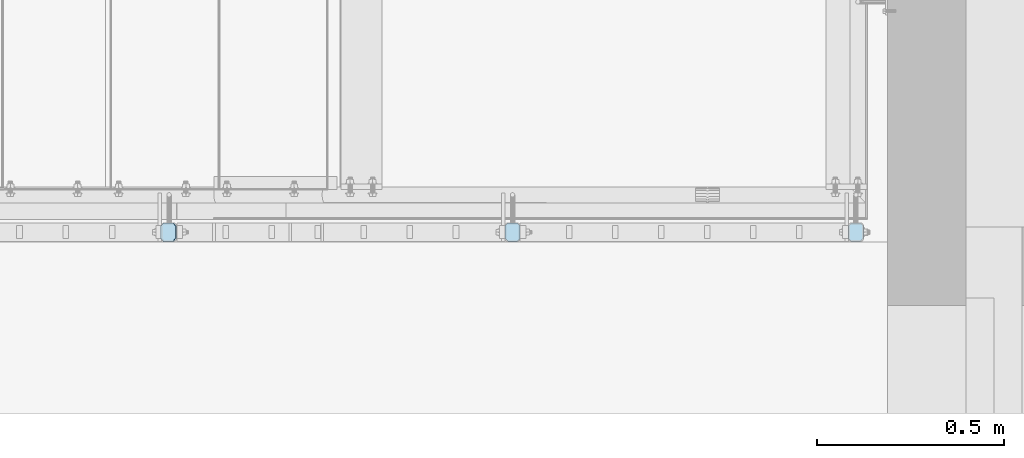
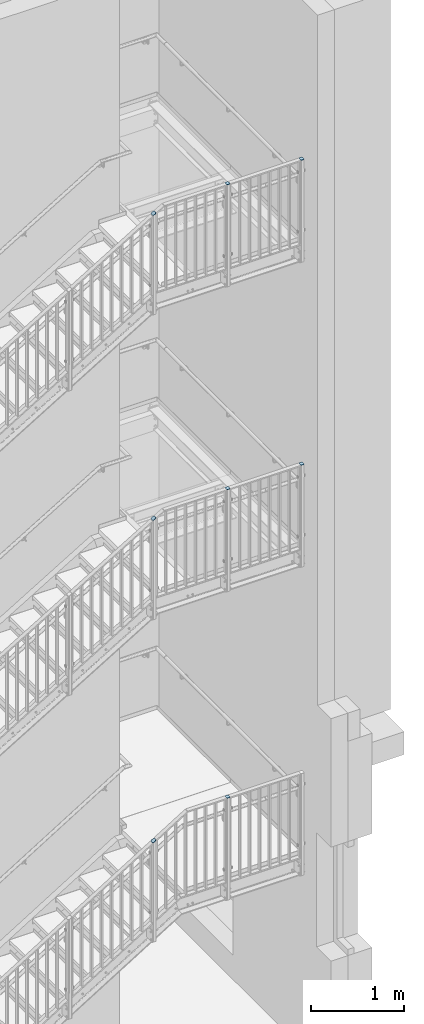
# One storey, part 71 of 410: 8 plates, 32 openings.
"""IFC2X3 building model written with IfcOpenShell, lengths in millimetres."""

from ifc_helpers import new_model, entity, si_unit, converted_unit, point, frame, frame_2d, origin, origin_with_axes, place, context, project, spatial, polyline, circle_curve, line_curve, trimmed, segment, composite_curve, outline, extrude, material, layer, layer_set, element, save


model = new_model("IFC2X3")

# Units and contexts
model_context = context("Model", 3, precision=1e-09, world=origin_with_axes())
ifc_project = project(units=[si_unit("LENGTHUNIT", "METRE", prefix="MILLI"), si_unit("AREAUNIT", "SQUARE_METRE"), si_unit("VOLUMEUNIT", "CUBIC_METRE"), converted_unit("PLANEANGLEUNIT", "DEGREE", entity("IfcPlaneAngleMeasure", 0.01745329), si_unit("PLANEANGLEUNIT", "RADIAN"), dimensions=[0, 0, 0, 0, 0, 0, 0])], contexts=[model_context])

# Site, building, storey
site_placement = place(None, origin_with_axes())
site = spatial("IfcSite", under=ifc_project, at=site_placement, Name="mKR Teilneubau & Sanierung BA1 - Ostfildern", CompositionType="ELEMENT")
building_placement = place(site_placement, origin_with_axes())
building = spatial("IfcBuilding", under=site, at=building_placement, Name="Struktur 1", CompositionType="ELEMENT")
storey_placement = place(building_placement, origin_with_axes())
storey = spatial("IfcBuildingStorey", under=building, at=storey_placement, Name="Default Storey", CompositionType="ELEMENT", Elevation=0.0)

# Plate, openings
ifc_material = material(Name="S235JR")
ifc_layer = layer(ifc_material, 5.0)
ifc_layer_set = layer_set([ifc_layer], Name="S235JR")
plate_1_placement = place(None, frame((2285.001468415, 15405.999999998, 7020.0), z_axis=(0.0, 0.0, 1.0), x_axis=(0.0, 1.0, 0.0)))
plate_1 = element("IfcPlate", 1, at=plate_1_placement, inside=storey, material=ifc_layer_set, Name="-", ObjectType="-", context=model_context, shape_type="SweptSolid", body=[
    extrude(outline(polyline([(-25.0, -20.0), (25.0, -20.0), (25.0, 20.0), (-25.0, 20.0), (-25.0, -20.0)])), origin_with_axes(), (0.0, 0.0, 1.0), 5.0),
])
opening_1_placement = place(plate_1_placement, frame((0.0, 0.0, -0.01), z_axis=(0.0, 0.0, 1.0), x_axis=(1.0, 0.0, 0.0)))
element("IfcOpeningElement", 2, at=opening_1_placement, cuts=plate_1, ObjectType="Opening", context=model_context, shape_type="SweptSolid", body=[
    extrude(outline(composite_curve([segment(trimmed(line_curve((25.0, -20.0), (0.0, 1.0), 8.0), [point((25.0, -20.0))], [point((25.0, -12.0))], True, "CARTESIAN"), True, "CONTINUOUS"), segment(trimmed(circle_curve(frame_2d((17.0, -12.0), x_axis=(-1.0, 0.0)), 8.0), [point((25.0, -12.0))], [point((17.0, -20.0))], False, "CARTESIAN"), True, "CONTINUOUS"), segment(trimmed(line_curve((17.0, -20.0), (1.0, 0.0), 8.0), [point((17.0, -20.0))], [point((25.0, -20.0))], True, "CARTESIAN"), True, "CONTINUOUS")], self_intersect=False)), origin(), (0.0, 0.0, 1.0), 5.02),
])
opening_2_placement = place(plate_1_placement, frame((0.0, 0.0, -0.01), z_axis=(0.0, 0.0, 1.0), x_axis=(1.0, 0.0, 0.0)))
element("IfcOpeningElement", 3, at=opening_2_placement, cuts=plate_1, ObjectType="Opening", context=model_context, shape_type="SweptSolid", body=[
    extrude(outline(composite_curve([segment(trimmed(line_curve((-25.0, -20.0), (1.0, 0.0), 8.0), [point((-25.0, -20.0))], [point((-17.0, -20.0))], True, "CARTESIAN"), True, "CONTINUOUS"), segment(trimmed(circle_curve(frame_2d((-17.0, -12.0), x_axis=(-1.0, 0.0)), 8.0), [point((-17.0, -20.0))], [point((-25.0, -12.0))], False, "CARTESIAN"), True, "CONTINUOUS"), segment(trimmed(line_curve((-25.0, -12.0), (0.0, -1.0), 8.0), [point((-25.0, -12.0))], [point((-25.0, -20.0))], True, "CARTESIAN"), True, "CONTINUOUS")], self_intersect=False)), origin(), (0.0, 0.0, 1.0), 5.02),
])
opening_3_placement = place(plate_1_placement, frame((0.0, 0.0, -0.01), z_axis=(0.0, 0.0, 1.0), x_axis=(1.0, 0.0, 0.0)))
element("IfcOpeningElement", 4, at=opening_3_placement, cuts=plate_1, ObjectType="Opening", context=model_context, shape_type="SweptSolid", body=[
    extrude(outline(composite_curve([segment(trimmed(line_curve((-25.0, 20.0), (0.0, -1.0), 8.0), [point((-25.0, 20.0))], [point((-25.0, 12.0))], True, "CARTESIAN"), True, "CONTINUOUS"), segment(trimmed(circle_curve(frame_2d((-17.0, 12.0), x_axis=(-1.0, 0.0)), 8.0), [point((-25.0, 12.0))], [point((-17.0, 20.0))], False, "CARTESIAN"), True, "CONTINUOUS"), segment(trimmed(line_curve((-17.0, 20.0), (-1.0, 0.0), 8.0), [point((-17.0, 20.0))], [point((-25.0, 20.0))], True, "CARTESIAN"), True, "CONTINUOUS")], self_intersect=False)), origin(), (0.0, 0.0, 1.0), 5.02),
])
opening_4_placement = place(plate_1_placement, frame((0.0, 0.0, -0.01), z_axis=(0.0, 0.0, 1.0), x_axis=(1.0, 0.0, 0.0)))
element("IfcOpeningElement", 5, at=opening_4_placement, cuts=plate_1, ObjectType="Opening", context=model_context, shape_type="SweptSolid", body=[
    extrude(outline(composite_curve([segment(trimmed(line_curve((25.0, 20.0), (-1.0, 0.0), 8.0), [point((25.0, 20.0))], [point((17.0, 20.0))], True, "CARTESIAN"), True, "CONTINUOUS"), segment(trimmed(circle_curve(frame_2d((17.0, 12.0), x_axis=(-1.0, 0.0)), 8.0), [point((17.0, 20.0))], [point((25.0, 12.0))], False, "CARTESIAN"), True, "CONTINUOUS"), segment(trimmed(line_curve((25.0, 12.0), (0.0, 1.0), 8.0), [point((25.0, 12.0))], [point((25.0, 20.0))], True, "CARTESIAN"), True, "CONTINUOUS")], self_intersect=False)), origin(), (0.0, 0.0, 1.0), 5.02),
])

plate_2_placement = place(None, frame((3205.001468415, 15405.999999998, 7020.0), z_axis=(0.0, 0.0, 1.0), x_axis=(0.0, 1.0, 0.0)))
plate_2 = element("IfcPlate", 6, at=plate_2_placement, inside=storey, material=ifc_layer_set, Name="-", ObjectType="-", context=model_context, shape_type="SweptSolid", body=[
    extrude(outline(polyline([(-25.0, -20.0), (25.0, -20.0), (25.0, 20.0), (-25.0, 20.0), (-25.0, -20.0)])), origin_with_axes(), (0.0, 0.0, 1.0), 5.0),
])
opening_5_placement = place(plate_2_placement, frame((0.0, 0.0, -0.01), z_axis=(0.0, 0.0, 1.0), x_axis=(1.0, 0.0, 0.0)))
element("IfcOpeningElement", 7, at=opening_5_placement, cuts=plate_2, ObjectType="Opening", context=model_context, shape_type="SweptSolid", body=[
    extrude(outline(composite_curve([segment(trimmed(line_curve((25.0, -20.0), (0.0, 1.0), 8.0), [point((25.0, -20.0))], [point((25.0, -12.0))], True, "CARTESIAN"), True, "CONTINUOUS"), segment(trimmed(circle_curve(frame_2d((17.0, -12.0), x_axis=(-1.0, 0.0)), 8.0), [point((25.0, -12.0))], [point((17.0, -20.0))], False, "CARTESIAN"), True, "CONTINUOUS"), segment(trimmed(line_curve((17.0, -20.0), (1.0, 0.0), 8.0), [point((17.0, -20.0))], [point((25.0, -20.0))], True, "CARTESIAN"), True, "CONTINUOUS")], self_intersect=False)), origin(), (0.0, 0.0, 1.0), 5.02),
])
opening_6_placement = place(plate_2_placement, frame((0.0, 0.0, -0.01), z_axis=(0.0, 0.0, 1.0), x_axis=(1.0, 0.0, 0.0)))
element("IfcOpeningElement", 8, at=opening_6_placement, cuts=plate_2, ObjectType="Opening", context=model_context, shape_type="SweptSolid", body=[
    extrude(outline(composite_curve([segment(trimmed(line_curve((-25.0, -20.0), (1.0, 0.0), 8.0), [point((-25.0, -20.0))], [point((-17.0, -20.0))], True, "CARTESIAN"), True, "CONTINUOUS"), segment(trimmed(circle_curve(frame_2d((-17.0, -12.0), x_axis=(-1.0, 0.0)), 8.0), [point((-17.0, -20.0))], [point((-25.0, -12.0))], False, "CARTESIAN"), True, "CONTINUOUS"), segment(trimmed(line_curve((-25.0, -12.0), (0.0, -1.0), 8.0), [point((-25.0, -12.0))], [point((-25.0, -20.0))], True, "CARTESIAN"), True, "CONTINUOUS")], self_intersect=False)), origin(), (0.0, 0.0, 1.0), 5.02),
])
opening_7_placement = place(plate_2_placement, frame((0.0, 0.0, -0.01), z_axis=(0.0, 0.0, 1.0), x_axis=(1.0, 0.0, 0.0)))
element("IfcOpeningElement", 9, at=opening_7_placement, cuts=plate_2, ObjectType="Opening", context=model_context, shape_type="SweptSolid", body=[
    extrude(outline(composite_curve([segment(trimmed(line_curve((-25.0, 20.0), (0.0, -1.0), 8.0), [point((-25.0, 20.0))], [point((-25.0, 12.0))], True, "CARTESIAN"), True, "CONTINUOUS"), segment(trimmed(circle_curve(frame_2d((-17.0, 12.0), x_axis=(-1.0, 0.0)), 8.0), [point((-25.0, 12.0))], [point((-17.0, 20.0))], False, "CARTESIAN"), True, "CONTINUOUS"), segment(trimmed(line_curve((-17.0, 20.0), (-1.0, 0.0), 8.0), [point((-17.0, 20.0))], [point((-25.0, 20.0))], True, "CARTESIAN"), True, "CONTINUOUS")], self_intersect=False)), origin(), (0.0, 0.0, 1.0), 5.02),
])
opening_8_placement = place(plate_2_placement, frame((0.0, 0.0, -0.01), z_axis=(0.0, 0.0, 1.0), x_axis=(1.0, 0.0, 0.0)))
element("IfcOpeningElement", 10, at=opening_8_placement, cuts=plate_2, ObjectType="Opening", context=model_context, shape_type="SweptSolid", body=[
    extrude(outline(composite_curve([segment(trimmed(line_curve((25.0, 20.0), (-1.0, 0.0), 8.0), [point((25.0, 20.0))], [point((17.0, 20.0))], True, "CARTESIAN"), True, "CONTINUOUS"), segment(trimmed(circle_curve(frame_2d((17.0, 12.0), x_axis=(-1.0, 0.0)), 8.0), [point((17.0, 20.0))], [point((25.0, 12.0))], False, "CARTESIAN"), True, "CONTINUOUS"), segment(trimmed(line_curve((25.0, 12.0), (0.0, 1.0), 8.0), [point((25.0, 12.0))], [point((25.0, 20.0))], True, "CARTESIAN"), True, "CONTINUOUS")], self_intersect=False)), origin(), (0.0, 0.0, 1.0), 5.02),
])

plate_3_placement = place(None, frame((2285.001468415, 15405.999999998, 3008.0434785), z_axis=(0.0, 0.0, 1.0), x_axis=(0.0, 1.0, 0.0)))
plate_3 = element("IfcPlate", 11, at=plate_3_placement, inside=storey, material=ifc_layer_set, Name="-", ObjectType="-", context=model_context, shape_type="SweptSolid", body=[
    extrude(outline(polyline([(-25.0, -20.0), (25.0, -20.0), (25.0, 20.0), (-25.0, 20.0), (-25.0, -20.0)])), origin_with_axes(), (0.0, 0.0, 1.0), 5.0),
])
opening_9_placement = place(plate_3_placement, frame((0.0, 0.0, -0.01), z_axis=(0.0, 0.0, 1.0), x_axis=(1.0, 0.0, 0.0)))
element("IfcOpeningElement", 12, at=opening_9_placement, cuts=plate_3, ObjectType="Opening", context=model_context, shape_type="SweptSolid", body=[
    extrude(outline(composite_curve([segment(trimmed(line_curve((25.0, -20.0), (0.0, 1.0), 8.0), [point((25.0, -20.0))], [point((25.0, -12.0))], True, "CARTESIAN"), True, "CONTINUOUS"), segment(trimmed(circle_curve(frame_2d((17.0, -12.0), x_axis=(-1.0, 0.0)), 8.0), [point((25.0, -12.0))], [point((17.0, -20.0))], False, "CARTESIAN"), True, "CONTINUOUS"), segment(trimmed(line_curve((17.0, -20.0), (1.0, 0.0), 8.0), [point((17.0, -20.0))], [point((25.0, -20.0))], True, "CARTESIAN"), True, "CONTINUOUS")], self_intersect=False)), origin(), (0.0, 0.0, 1.0), 5.02),
])
opening_10_placement = place(plate_3_placement, frame((0.0, 0.0, -0.01), z_axis=(0.0, 0.0, 1.0), x_axis=(1.0, 0.0, 0.0)))
element("IfcOpeningElement", 13, at=opening_10_placement, cuts=plate_3, ObjectType="Opening", context=model_context, shape_type="SweptSolid", body=[
    extrude(outline(composite_curve([segment(trimmed(line_curve((-25.0, -20.0), (1.0, 0.0), 8.0), [point((-25.0, -20.0))], [point((-17.0, -20.0))], True, "CARTESIAN"), True, "CONTINUOUS"), segment(trimmed(circle_curve(frame_2d((-17.0, -12.0), x_axis=(-1.0, 0.0)), 8.0), [point((-17.0, -20.0))], [point((-25.0, -12.0))], False, "CARTESIAN"), True, "CONTINUOUS"), segment(trimmed(line_curve((-25.0, -12.0), (0.0, -1.0), 8.0), [point((-25.0, -12.0))], [point((-25.0, -20.0))], True, "CARTESIAN"), True, "CONTINUOUS")], self_intersect=False)), origin(), (0.0, 0.0, 1.0), 5.02),
])
opening_11_placement = place(plate_3_placement, frame((0.0, 0.0, -0.01), z_axis=(0.0, 0.0, 1.0), x_axis=(1.0, 0.0, 0.0)))
element("IfcOpeningElement", 14, at=opening_11_placement, cuts=plate_3, ObjectType="Opening", context=model_context, shape_type="SweptSolid", body=[
    extrude(outline(composite_curve([segment(trimmed(line_curve((-25.0, 20.0), (0.0, -1.0), 8.0), [point((-25.0, 20.0))], [point((-25.0, 12.0))], True, "CARTESIAN"), True, "CONTINUOUS"), segment(trimmed(circle_curve(frame_2d((-17.0, 12.0), x_axis=(-1.0, 0.0)), 8.0), [point((-25.0, 12.0))], [point((-17.0, 20.0))], False, "CARTESIAN"), True, "CONTINUOUS"), segment(trimmed(line_curve((-17.0, 20.0), (-1.0, 0.0), 8.0), [point((-17.0, 20.0))], [point((-25.0, 20.0))], True, "CARTESIAN"), True, "CONTINUOUS")], self_intersect=False)), origin(), (0.0, 0.0, 1.0), 5.02),
])
opening_12_placement = place(plate_3_placement, frame((0.0, 0.0, -0.01), z_axis=(0.0, 0.0, 1.0), x_axis=(1.0, 0.0, 0.0)))
element("IfcOpeningElement", 15, at=opening_12_placement, cuts=plate_3, ObjectType="Opening", context=model_context, shape_type="SweptSolid", body=[
    extrude(outline(composite_curve([segment(trimmed(line_curve((25.0, 20.0), (-1.0, 0.0), 8.0), [point((25.0, 20.0))], [point((17.0, 20.0))], True, "CARTESIAN"), True, "CONTINUOUS"), segment(trimmed(circle_curve(frame_2d((17.0, 12.0), x_axis=(-1.0, 0.0)), 8.0), [point((17.0, 20.0))], [point((25.0, 12.0))], False, "CARTESIAN"), True, "CONTINUOUS"), segment(trimmed(line_curve((25.0, 12.0), (0.0, 1.0), 8.0), [point((25.0, 12.0))], [point((25.0, 20.0))], True, "CARTESIAN"), True, "CONTINUOUS")], self_intersect=False)), origin(), (0.0, 0.0, 1.0), 5.02),
])

plate_4_placement = place(None, frame((3205.001468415, 15405.999999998, 3008.0434785), z_axis=(0.0, 0.0, 1.0), x_axis=(0.0, 1.0, 0.0)))
plate_4 = element("IfcPlate", 16, at=plate_4_placement, inside=storey, material=ifc_layer_set, Name="-", ObjectType="-", context=model_context, shape_type="SweptSolid", body=[
    extrude(outline(polyline([(-25.0, -20.0), (25.0, -20.0), (25.0, 20.0), (-25.0, 20.0), (-25.0, -20.0)])), origin_with_axes(), (0.0, 0.0, 1.0), 5.0),
])
opening_13_placement = place(plate_4_placement, frame((0.0, 0.0, -0.01), z_axis=(0.0, 0.0, 1.0), x_axis=(1.0, 0.0, 0.0)))
element("IfcOpeningElement", 17, at=opening_13_placement, cuts=plate_4, ObjectType="Opening", context=model_context, shape_type="SweptSolid", body=[
    extrude(outline(composite_curve([segment(trimmed(line_curve((25.0, 20.0), (-1.0, 0.0), 8.0), [point((25.0, 20.0))], [point((17.0, 20.0))], True, "CARTESIAN"), True, "CONTINUOUS"), segment(trimmed(circle_curve(frame_2d((17.0, 12.0), x_axis=(-1.0, 0.0)), 8.0), [point((17.0, 20.0))], [point((25.0, 12.0))], False, "CARTESIAN"), True, "CONTINUOUS"), segment(trimmed(line_curve((25.0, 12.0), (0.0, 1.0), 8.0), [point((25.0, 12.0))], [point((25.0, 20.0))], True, "CARTESIAN"), True, "CONTINUOUS")], self_intersect=False)), origin(), (0.0, 0.0, 1.0), 5.02),
])
opening_14_placement = place(plate_4_placement, frame((0.0, 0.0, -0.01), z_axis=(0.0, 0.0, 1.0), x_axis=(1.0, 0.0, 0.0)))
element("IfcOpeningElement", 18, at=opening_14_placement, cuts=plate_4, ObjectType="Opening", context=model_context, shape_type="SweptSolid", body=[
    extrude(outline(composite_curve([segment(trimmed(line_curve((25.0, -20.0), (0.0, 1.0), 8.0), [point((25.0, -20.0))], [point((25.0, -12.0))], True, "CARTESIAN"), True, "CONTINUOUS"), segment(trimmed(circle_curve(frame_2d((17.0, -12.0), x_axis=(-1.0, 0.0)), 8.0), [point((25.0, -12.0))], [point((17.0, -20.0))], False, "CARTESIAN"), True, "CONTINUOUS"), segment(trimmed(line_curve((17.0, -20.0), (1.0, 0.0), 8.0), [point((17.0, -20.0))], [point((25.0, -20.0))], True, "CARTESIAN"), True, "CONTINUOUS")], self_intersect=False)), origin(), (0.0, 0.0, 1.0), 5.02),
])
opening_15_placement = place(plate_4_placement, frame((0.0, 0.0, -0.01), z_axis=(0.0, 0.0, 1.0), x_axis=(1.0, 0.0, 0.0)))
element("IfcOpeningElement", 19, at=opening_15_placement, cuts=plate_4, ObjectType="Opening", context=model_context, shape_type="SweptSolid", body=[
    extrude(outline(composite_curve([segment(trimmed(line_curve((-25.0, -20.0), (1.0, 0.0), 8.0), [point((-25.0, -20.0))], [point((-17.0, -20.0))], True, "CARTESIAN"), True, "CONTINUOUS"), segment(trimmed(circle_curve(frame_2d((-17.0, -12.0), x_axis=(-1.0, 0.0)), 8.0), [point((-17.0, -20.0))], [point((-25.0, -12.0))], False, "CARTESIAN"), True, "CONTINUOUS"), segment(trimmed(line_curve((-25.0, -12.0), (0.0, -1.0), 8.0), [point((-25.0, -12.0))], [point((-25.0, -20.0))], True, "CARTESIAN"), True, "CONTINUOUS")], self_intersect=False)), origin(), (0.0, 0.0, 1.0), 5.02),
])
opening_16_placement = place(plate_4_placement, frame((0.0, 0.0, -0.01), z_axis=(0.0, 0.0, 1.0), x_axis=(1.0, 0.0, 0.0)))
element("IfcOpeningElement", 20, at=opening_16_placement, cuts=plate_4, ObjectType="Opening", context=model_context, shape_type="SweptSolid", body=[
    extrude(outline(composite_curve([segment(trimmed(line_curve((-25.0, 20.0), (0.0, -1.0), 8.0), [point((-25.0, 20.0))], [point((-25.0, 12.0))], True, "CARTESIAN"), True, "CONTINUOUS"), segment(trimmed(circle_curve(frame_2d((-17.0, 12.0), x_axis=(-1.0, 0.0)), 8.0), [point((-25.0, 12.0))], [point((-17.0, 20.0))], False, "CARTESIAN"), True, "CONTINUOUS"), segment(trimmed(line_curve((-17.0, 20.0), (-1.0, 0.0), 8.0), [point((-17.0, 20.0))], [point((-25.0, 20.0))], True, "CARTESIAN"), True, "CONTINUOUS")], self_intersect=False)), origin(), (0.0, 0.0, 1.0), 5.02),
])

plate_5_placement = place(None, frame((2285.001468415, 15405.999999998, -1050.6), z_axis=(0.0, 0.0, 1.0), x_axis=(0.0, 1.0, 0.0)))
plate_5 = element("IfcPlate", 21, at=plate_5_placement, inside=storey, material=ifc_layer_set, Name="-", ObjectType="-", context=model_context, shape_type="SweptSolid", body=[
    extrude(outline(polyline([(-25.0, -20.0), (25.0, -20.0), (25.0, 20.0), (-25.0, 20.0), (-25.0, -20.0)])), origin_with_axes(), (0.0, 0.0, 1.0), 5.0),
])
opening_17_placement = place(plate_5_placement, frame((0.0, 0.0, -0.01), z_axis=(0.0, 0.0, 1.0), x_axis=(1.0, 0.0, 0.0)))
element("IfcOpeningElement", 22, at=opening_17_placement, cuts=plate_5, ObjectType="Opening", context=model_context, shape_type="SweptSolid", body=[
    extrude(outline(composite_curve([segment(trimmed(line_curve((25.0, -20.0), (0.0, 1.0), 8.0), [point((25.0, -20.0))], [point((25.0, -12.0))], True, "CARTESIAN"), True, "CONTINUOUS"), segment(trimmed(circle_curve(frame_2d((17.0, -12.0), x_axis=(-1.0, 0.0)), 8.0), [point((25.0, -12.0))], [point((17.0, -20.0))], False, "CARTESIAN"), True, "CONTINUOUS"), segment(trimmed(line_curve((17.0, -20.0), (1.0, 0.0), 8.0), [point((17.0, -20.0))], [point((25.0, -20.0))], True, "CARTESIAN"), True, "CONTINUOUS")], self_intersect=False)), origin(), (0.0, 0.0, 1.0), 5.02),
])
opening_18_placement = place(plate_5_placement, frame((0.0, 0.0, -0.01), z_axis=(0.0, 0.0, 1.0), x_axis=(1.0, 0.0, 0.0)))
element("IfcOpeningElement", 23, at=opening_18_placement, cuts=plate_5, ObjectType="Opening", context=model_context, shape_type="SweptSolid", body=[
    extrude(outline(composite_curve([segment(trimmed(line_curve((-25.0, -20.0), (1.0, 0.0), 8.0), [point((-25.0, -20.0))], [point((-17.0, -20.0))], True, "CARTESIAN"), True, "CONTINUOUS"), segment(trimmed(circle_curve(frame_2d((-17.0, -12.0), x_axis=(-1.0, 0.0)), 8.0), [point((-17.0, -20.0))], [point((-25.0, -12.0))], False, "CARTESIAN"), True, "CONTINUOUS"), segment(trimmed(line_curve((-25.0, -12.0), (0.0, -1.0), 8.0), [point((-25.0, -12.0))], [point((-25.0, -20.0))], True, "CARTESIAN"), True, "CONTINUOUS")], self_intersect=False)), origin(), (0.0, 0.0, 1.0), 5.02),
])
opening_19_placement = place(plate_5_placement, frame((0.0, 0.0, -0.01), z_axis=(0.0, 0.0, 1.0), x_axis=(1.0, 0.0, 0.0)))
element("IfcOpeningElement", 24, at=opening_19_placement, cuts=plate_5, ObjectType="Opening", context=model_context, shape_type="SweptSolid", body=[
    extrude(outline(composite_curve([segment(trimmed(line_curve((-25.0, 20.0), (0.0, -1.0), 8.0), [point((-25.0, 20.0))], [point((-25.0, 12.0))], True, "CARTESIAN"), True, "CONTINUOUS"), segment(trimmed(circle_curve(frame_2d((-17.0, 12.0), x_axis=(-1.0, 0.0)), 8.0), [point((-25.0, 12.0))], [point((-17.0, 20.0))], False, "CARTESIAN"), True, "CONTINUOUS"), segment(trimmed(line_curve((-17.0, 20.0), (-1.0, 0.0), 8.0), [point((-17.0, 20.0))], [point((-25.0, 20.0))], True, "CARTESIAN"), True, "CONTINUOUS")], self_intersect=False)), origin(), (0.0, 0.0, 1.0), 5.02),
])
opening_20_placement = place(plate_5_placement, frame((0.0, 0.0, -0.01), z_axis=(0.0, 0.0, 1.0), x_axis=(1.0, 0.0, 0.0)))
element("IfcOpeningElement", 25, at=opening_20_placement, cuts=plate_5, ObjectType="Opening", context=model_context, shape_type="SweptSolid", body=[
    extrude(outline(composite_curve([segment(trimmed(line_curve((25.0, 20.0), (-1.0, 0.0), 8.0), [point((25.0, 20.0))], [point((17.0, 20.0))], True, "CARTESIAN"), True, "CONTINUOUS"), segment(trimmed(circle_curve(frame_2d((17.0, 12.0), x_axis=(-1.0, 0.0)), 8.0), [point((17.0, 20.0))], [point((25.0, 12.0))], False, "CARTESIAN"), True, "CONTINUOUS"), segment(trimmed(line_curve((25.0, 12.0), (0.0, 1.0), 8.0), [point((25.0, 12.0))], [point((25.0, 20.0))], True, "CARTESIAN"), True, "CONTINUOUS")], self_intersect=False)), origin(), (0.0, 0.0, 1.0), 5.02),
])

plate_6_placement = place(None, frame((1364.997400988, 15405.999999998, -1304.261768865), z_axis=(-0.524817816, 0.0, 0.851214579), x_axis=(0.0, 1.0, 0.0)))
plate_6 = element("IfcPlate", 26, at=plate_6_placement, inside=storey, material=ifc_layer_set, Name="-", ObjectType="-", context=model_context, shape_type="SweptSolid", body=[
    extrude(outline(polyline([(-25.0, -23.5), (25.0, -23.5), (25.0, 23.5), (-25.0, 23.5), (-25.0, -23.5)])), origin_with_axes(), (0.0, 0.0, 1.0), 5.0),
])
opening_21_placement = place(plate_6_placement, frame((0.0, -3.5, -0.01), z_axis=(0.0, 0.0, 1.0), x_axis=(1.0, 0.0, 0.0)))
element("IfcOpeningElement", 27, at=opening_21_placement, cuts=plate_6, ObjectType="Opening", context=model_context, shape_type="SweptSolid", body=[
    extrude(outline(composite_curve([segment(trimmed(line_curve((-25.0, -20.0), (1.0, 0.0), 9.0), [point((-25.0, -20.0))], [point((-16.0, -20.0))], True, "CARTESIAN"), True, "CONTINUOUS"), segment(trimmed(circle_curve(frame_2d((-16.0, -11.0), x_axis=(-1.0, 0.0)), 9.0), [point((-16.0, -20.0))], [point((-25.0, -11.0))], False, "CARTESIAN"), True, "CONTINUOUS"), segment(trimmed(line_curve((-25.0, -11.0), (0.0, -1.0), 9.0), [point((-25.0, -11.0))], [point((-25.0, -20.0))], True, "CARTESIAN"), True, "CONTINUOUS")], self_intersect=False)), origin(), (0.0, 0.0, 1.0), 5.02),
])
opening_22_placement = place(plate_6_placement, frame((0.0, -3.5, -0.01), z_axis=(0.0, 0.0, 1.0), x_axis=(1.0, 0.0, 0.0)))
element("IfcOpeningElement", 28, at=opening_22_placement, cuts=plate_6, ObjectType="Opening", context=model_context, shape_type="SweptSolid", body=[
    extrude(outline(composite_curve([segment(trimmed(line_curve((25.0, -20.0), (0.0, 1.0), 9.0), [point((25.0, -20.0))], [point((25.0, -11.0))], True, "CARTESIAN"), True, "CONTINUOUS"), segment(trimmed(circle_curve(frame_2d((16.0, -11.0), x_axis=(-1.0, 0.0)), 9.0), [point((25.0, -11.0))], [point((16.0, -20.0))], False, "CARTESIAN"), True, "CONTINUOUS"), segment(trimmed(line_curve((16.0, -20.0), (1.0, 0.0), 9.0), [point((16.0, -20.0))], [point((25.0, -20.0))], True, "CARTESIAN"), True, "CONTINUOUS")], self_intersect=False)), origin(), (0.0, 0.0, 1.0), 5.02),
])
opening_23_placement = place(plate_6_placement, frame((0.0, -3.5, -0.01), z_axis=(0.0, 0.0, 1.0), x_axis=(1.0, 0.0, 0.0)))
element("IfcOpeningElement", 29, at=opening_23_placement, cuts=plate_6, ObjectType="Opening", context=model_context, shape_type="SweptSolid", body=[
    extrude(outline(composite_curve([segment(trimmed(line_curve((-25.0, 27.0), (0.0, -1.0), 9.0), [point((-25.0, 27.0))], [point((-25.0, 18.0))], True, "CARTESIAN"), True, "CONTINUOUS"), segment(trimmed(circle_curve(frame_2d((-16.0, 18.0), x_axis=(-1.0, 0.0)), 9.0), [point((-25.0, 18.0))], [point((-16.0, 27.0))], False, "CARTESIAN"), True, "CONTINUOUS"), segment(trimmed(line_curve((-16.0, 27.0), (-1.0, 0.0), 9.0), [point((-16.0, 27.0))], [point((-25.0, 27.0))], True, "CARTESIAN"), True, "CONTINUOUS")], self_intersect=False)), origin(), (0.0, 0.0, 1.0), 5.02),
])
opening_24_placement = place(plate_6_placement, frame((0.0, -3.5, -0.01), z_axis=(0.0, 0.0, 1.0), x_axis=(1.0, 0.0, 0.0)))
element("IfcOpeningElement", 30, at=opening_24_placement, cuts=plate_6, ObjectType="Opening", context=model_context, shape_type="SweptSolid", body=[
    extrude(outline(composite_curve([segment(trimmed(line_curve((25.0, 27.0), (-1.0, 0.0), 9.0), [point((25.0, 27.0))], [point((16.0, 27.0))], True, "CARTESIAN"), True, "CONTINUOUS"), segment(trimmed(circle_curve(frame_2d((16.0, 18.0), x_axis=(-1.0, 0.0)), 9.0), [point((16.0, 27.0))], [point((25.0, 18.0))], False, "CARTESIAN"), True, "CONTINUOUS"), segment(trimmed(line_curve((25.0, 18.0), (0.0, 1.0), 9.0), [point((25.0, 18.0))], [point((25.0, 27.0))], True, "CARTESIAN"), True, "CONTINUOUS")], self_intersect=False)), origin(), (0.0, 0.0, 1.0), 5.02),
])

plate_7_placement = place(None, frame((1364.847719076, 15405.999999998, 2935.156790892), z_axis=(-0.51430666, 0.0, 0.857606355), x_axis=(0.0, 1.0, 0.0)))
plate_7 = element("IfcPlate", 31, at=plate_7_placement, inside=storey, material=ifc_layer_set, Name="-", ObjectType="-", context=model_context, shape_type="SweptSolid", body=[
    extrude(outline(polyline([(-25.0, -23.5), (25.0, -23.5), (25.0, 23.5), (-25.0, 23.5), (-25.0, -23.5)])), origin_with_axes(), (0.0, 0.0, 1.0), 5.0),
])
opening_25_placement = place(plate_7_placement, frame((0.0, -3.5, -0.01), z_axis=(0.0, 0.0, 1.0), x_axis=(1.0, 0.0, 0.0)))
element("IfcOpeningElement", 32, at=opening_25_placement, cuts=plate_7, ObjectType="Opening", context=model_context, shape_type="SweptSolid", body=[
    extrude(outline(composite_curve([segment(trimmed(line_curve((-25.0, -20.0), (1.0, 0.0), 9.0), [point((-25.0, -20.0))], [point((-16.0, -20.0))], True, "CARTESIAN"), True, "CONTINUOUS"), segment(trimmed(circle_curve(frame_2d((-16.0, -11.0), x_axis=(-1.0, 0.0)), 9.0), [point((-16.0, -20.0))], [point((-25.0, -11.0))], False, "CARTESIAN"), True, "CONTINUOUS"), segment(trimmed(line_curve((-25.0, -11.0), (0.0, -1.0), 9.0), [point((-25.0, -11.0))], [point((-25.0, -20.0))], True, "CARTESIAN"), True, "CONTINUOUS")], self_intersect=False)), origin(), (0.0, 0.0, 1.0), 5.02),
])
opening_26_placement = place(plate_7_placement, frame((0.0, -3.5, -0.01), z_axis=(0.0, 0.0, 1.0), x_axis=(1.0, 0.0, 0.0)))
element("IfcOpeningElement", 33, at=opening_26_placement, cuts=plate_7, ObjectType="Opening", context=model_context, shape_type="SweptSolid", body=[
    extrude(outline(composite_curve([segment(trimmed(line_curve((25.0, -20.0), (0.0, 1.0), 9.0), [point((25.0, -20.0))], [point((25.0, -11.0))], True, "CARTESIAN"), True, "CONTINUOUS"), segment(trimmed(circle_curve(frame_2d((16.0, -11.0), x_axis=(-1.0, 0.0)), 9.0), [point((25.0, -11.0))], [point((16.0, -20.0))], False, "CARTESIAN"), True, "CONTINUOUS"), segment(trimmed(line_curve((16.0, -20.0), (1.0, 0.0), 9.0), [point((16.0, -20.0))], [point((25.0, -20.0))], True, "CARTESIAN"), True, "CONTINUOUS")], self_intersect=False)), origin(), (0.0, 0.0, 1.0), 5.02),
])
opening_27_placement = place(plate_7_placement, frame((0.0, -3.5, -0.01), z_axis=(0.0, 0.0, 1.0), x_axis=(1.0, 0.0, 0.0)))
element("IfcOpeningElement", 34, at=opening_27_placement, cuts=plate_7, ObjectType="Opening", context=model_context, shape_type="SweptSolid", body=[
    extrude(outline(composite_curve([segment(trimmed(line_curve((25.0, 27.0), (-1.0, 0.0), 9.0), [point((25.0, 27.0))], [point((16.0, 27.0))], True, "CARTESIAN"), True, "CONTINUOUS"), segment(trimmed(circle_curve(frame_2d((16.0, 18.0), x_axis=(-1.0, 0.0)), 9.0), [point((16.0, 27.0))], [point((25.0, 18.0))], False, "CARTESIAN"), True, "CONTINUOUS"), segment(trimmed(line_curve((25.0, 18.0), (0.0, 1.0), 9.0), [point((25.0, 18.0))], [point((25.0, 27.0))], True, "CARTESIAN"), True, "CONTINUOUS")], self_intersect=False)), origin(), (0.0, 0.0, 1.0), 5.02),
])
opening_28_placement = place(plate_7_placement, frame((0.0, -3.5, -0.01), z_axis=(0.0, 0.0, 1.0), x_axis=(1.0, 0.0, 0.0)))
element("IfcOpeningElement", 35, at=opening_28_placement, cuts=plate_7, ObjectType="Opening", context=model_context, shape_type="SweptSolid", body=[
    extrude(outline(composite_curve([segment(trimmed(line_curve((-25.0, 27.0), (0.0, -1.0), 9.0), [point((-25.0, 27.0))], [point((-25.0, 18.0))], True, "CARTESIAN"), True, "CONTINUOUS"), segment(trimmed(circle_curve(frame_2d((-16.0, 18.0), x_axis=(-1.0, 0.0)), 9.0), [point((-25.0, 18.0))], [point((-16.0, 27.0))], False, "CARTESIAN"), True, "CONTINUOUS"), segment(trimmed(line_curve((-16.0, 27.0), (-1.0, 0.0), 9.0), [point((-16.0, 27.0))], [point((-25.0, 27.0))], True, "CARTESIAN"), True, "CONTINUOUS")], self_intersect=False)), origin(), (0.0, 0.0, 1.0), 5.02),
])

plate_8_placement = place(None, frame((1364.881058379, 15405.999999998, 6946.673422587), z_axis=(-0.516664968, 0.0, 0.856187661), x_axis=(0.0, 1.0, 0.0)))
plate_8 = element("IfcPlate", 36, at=plate_8_placement, inside=storey, material=ifc_layer_set, Name="-", ObjectType="-", context=model_context, shape_type="SweptSolid", body=[
    extrude(outline(polyline([(-25.0, -23.5), (25.0, -23.5), (25.0, 23.5), (-25.0, 23.5), (-25.0, -23.5)])), origin_with_axes(), (0.0, 0.0, 1.0), 5.0),
])
opening_29_placement = place(plate_8_placement, frame((0.0, -3.5, -0.01), z_axis=(0.0, 0.0, 1.0), x_axis=(1.0, 0.0, 0.0)))
element("IfcOpeningElement", 37, at=opening_29_placement, cuts=plate_8, ObjectType="Opening", context=model_context, shape_type="SweptSolid", body=[
    extrude(outline(composite_curve([segment(trimmed(line_curve((25.0, -20.0), (0.0, 1.0), 9.0), [point((25.0, -20.0))], [point((25.0, -11.0))], True, "CARTESIAN"), True, "CONTINUOUS"), segment(trimmed(circle_curve(frame_2d((16.0, -11.0), x_axis=(-1.0, 0.0)), 9.0), [point((25.0, -11.0))], [point((16.0, -20.0))], False, "CARTESIAN"), True, "CONTINUOUS"), segment(trimmed(line_curve((16.0, -20.0), (1.0, 0.0), 9.0), [point((16.0, -20.0))], [point((25.0, -20.0))], True, "CARTESIAN"), True, "CONTINUOUS")], self_intersect=False)), origin(), (0.0, 0.0, 1.0), 5.02),
])
opening_30_placement = place(plate_8_placement, frame((0.0, -3.5, -0.01), z_axis=(0.0, 0.0, 1.0), x_axis=(1.0, 0.0, 0.0)))
element("IfcOpeningElement", 38, at=opening_30_placement, cuts=plate_8, ObjectType="Opening", context=model_context, shape_type="SweptSolid", body=[
    extrude(outline(composite_curve([segment(trimmed(line_curve((-25.0, -20.0), (1.0, 0.0), 9.0), [point((-25.0, -20.0))], [point((-16.0, -20.0))], True, "CARTESIAN"), True, "CONTINUOUS"), segment(trimmed(circle_curve(frame_2d((-16.0, -11.0), x_axis=(-1.0, 0.0)), 9.0), [point((-16.0, -20.0))], [point((-25.0, -11.0))], False, "CARTESIAN"), True, "CONTINUOUS"), segment(trimmed(line_curve((-25.0, -11.0), (0.0, -1.0), 9.0), [point((-25.0, -11.0))], [point((-25.0, -20.0))], True, "CARTESIAN"), True, "CONTINUOUS")], self_intersect=False)), origin(), (0.0, 0.0, 1.0), 5.02),
])
opening_31_placement = place(plate_8_placement, frame((0.0, -3.5, -0.01), z_axis=(0.0, 0.0, 1.0), x_axis=(1.0, 0.0, 0.0)))
element("IfcOpeningElement", 39, at=opening_31_placement, cuts=plate_8, ObjectType="Opening", context=model_context, shape_type="SweptSolid", body=[
    extrude(outline(composite_curve([segment(trimmed(line_curve((25.0, 27.0), (-1.0, 0.0), 9.0), [point((25.0, 27.0))], [point((16.0, 27.0))], True, "CARTESIAN"), True, "CONTINUOUS"), segment(trimmed(circle_curve(frame_2d((16.0, 18.0), x_axis=(-1.0, 0.0)), 9.0), [point((16.0, 27.0))], [point((25.0, 18.0))], False, "CARTESIAN"), True, "CONTINUOUS"), segment(trimmed(line_curve((25.0, 18.0), (0.0, 1.0), 9.0), [point((25.0, 18.0))], [point((25.0, 27.0))], True, "CARTESIAN"), True, "CONTINUOUS")], self_intersect=False)), origin(), (0.0, 0.0, 1.0), 5.02),
])
opening_32_placement = place(plate_8_placement, frame((0.0, -3.5, -0.01), z_axis=(0.0, 0.0, 1.0), x_axis=(1.0, 0.0, 0.0)))
element("IfcOpeningElement", 40, at=opening_32_placement, cuts=plate_8, ObjectType="Opening", context=model_context, shape_type="SweptSolid", body=[
    extrude(outline(composite_curve([segment(trimmed(line_curve((-25.0, 27.0), (0.0, -1.0), 9.0), [point((-25.0, 27.0))], [point((-25.0, 18.0))], True, "CARTESIAN"), True, "CONTINUOUS"), segment(trimmed(circle_curve(frame_2d((-16.0, 18.0), x_axis=(-1.0, 0.0)), 9.0), [point((-25.0, 18.0))], [point((-16.0, 27.0))], False, "CARTESIAN"), True, "CONTINUOUS"), segment(trimmed(line_curve((-16.0, 27.0), (-1.0, 0.0), 9.0), [point((-16.0, 27.0))], [point((-25.0, 27.0))], True, "CARTESIAN"), True, "CONTINUOUS")], self_intersect=False)), origin(), (0.0, 0.0, 1.0), 5.02),
])

save(model, "model.ifc")
